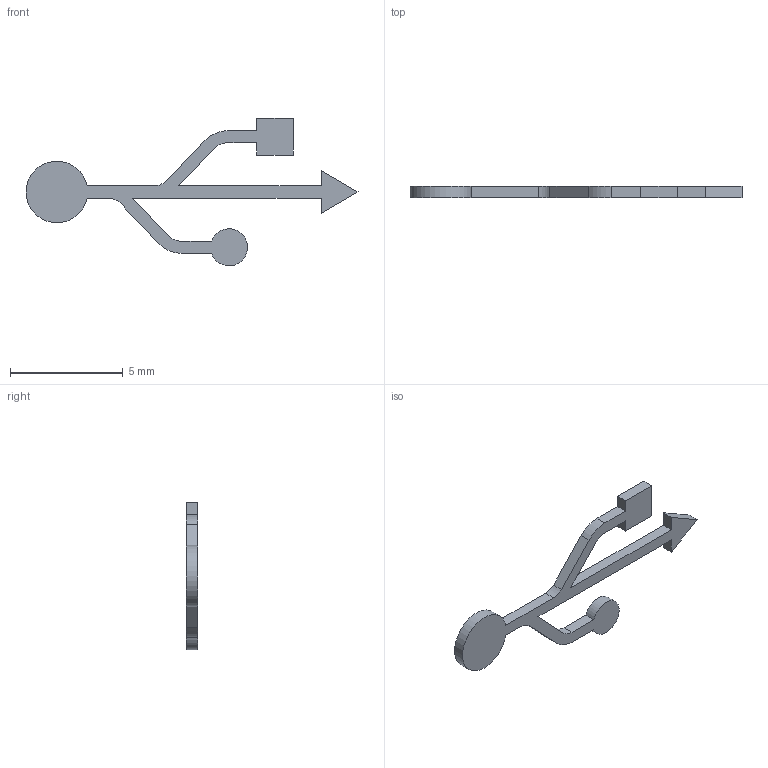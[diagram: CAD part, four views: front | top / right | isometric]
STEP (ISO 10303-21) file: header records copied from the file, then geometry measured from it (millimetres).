
FILE_DESCRIPTION(/* description */ ('STEP AP242','CAx-IF Rec.Pracs.---Representation and Presentation of Product Manufacturing Information (PMI)---4.0---2014-10-13','CAx-IF Rec.Pracs.---3D Tessellated Geometry---0.4---2014-09-14','2;1'),/* implementation_level */ '2;1');
FILE_NAME(/* name */ '643bef9644065c201b04dcc1',/* time_stamp */ '2023-04-16T12:52:39+00:00',/* author */ (''),/* organization */ (''),/* preprocessor_version */ 'ST-DEVELOPER v18.102',/* originating_system */ ' ',/* authorisation */ ' ');
FILE_SCHEMA (('AP242_MANAGED_MODEL_BASED_3D_ENGINEERING_MIM_LF { 1 0 10303 442 1 1 4 }'));
Length unit declared in the file: metre
Products named in the file (1): USB_Symbol
Bounding box: 14.73 x 0.5 x 6.55 mm (x, y, z)
Volume: 11.5 mm3; surface area: 76.9 mm2
Topology: 1 solids, 1 shells, 31 faces, 87 edges, 58 vertices
Faces by surface type: plane 23, cylinder 8
Entity records: 1019 total; most frequent: CARTESIAN_POINT 177, ORIENTED_EDGE 174, DIRECTION 167, EDGE_CURVE 87, LINE 71, VECTOR 71, VERTEX_POINT 58, AXIS2_PLACEMENT_3D 48
